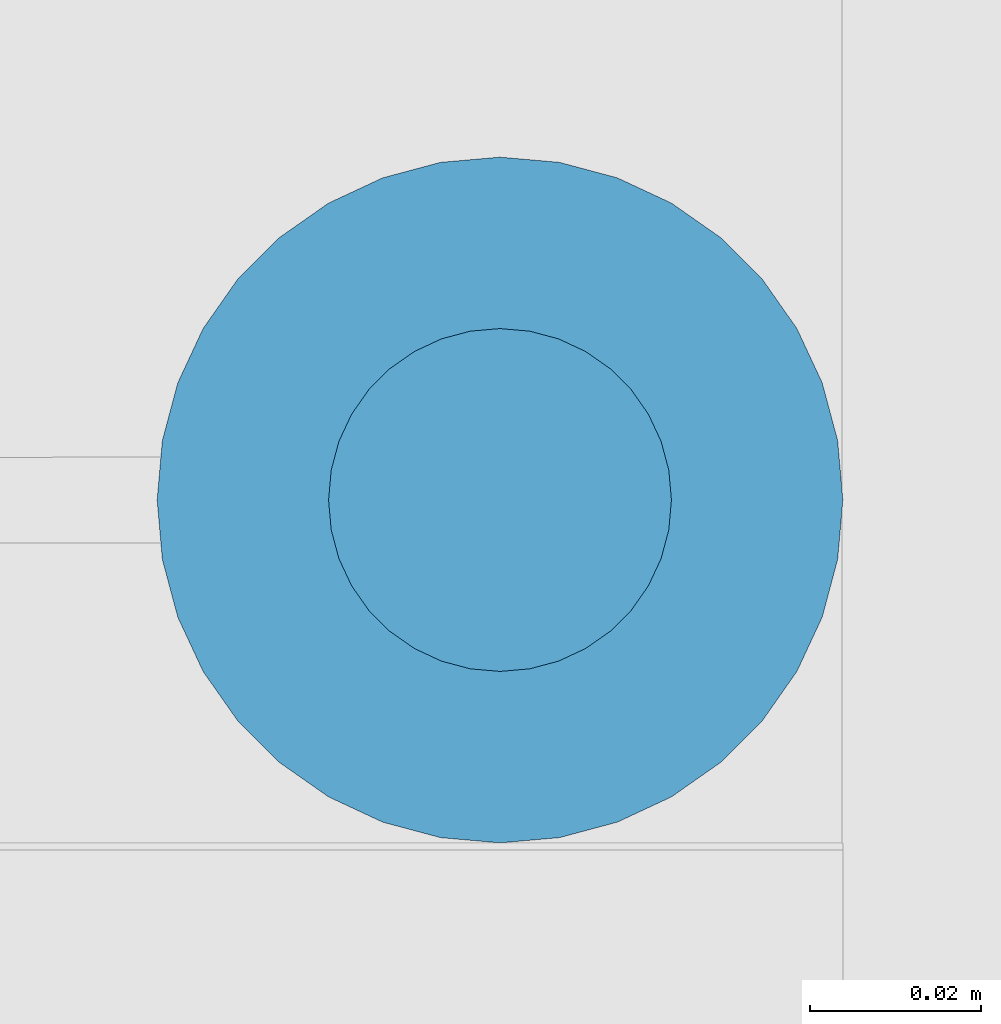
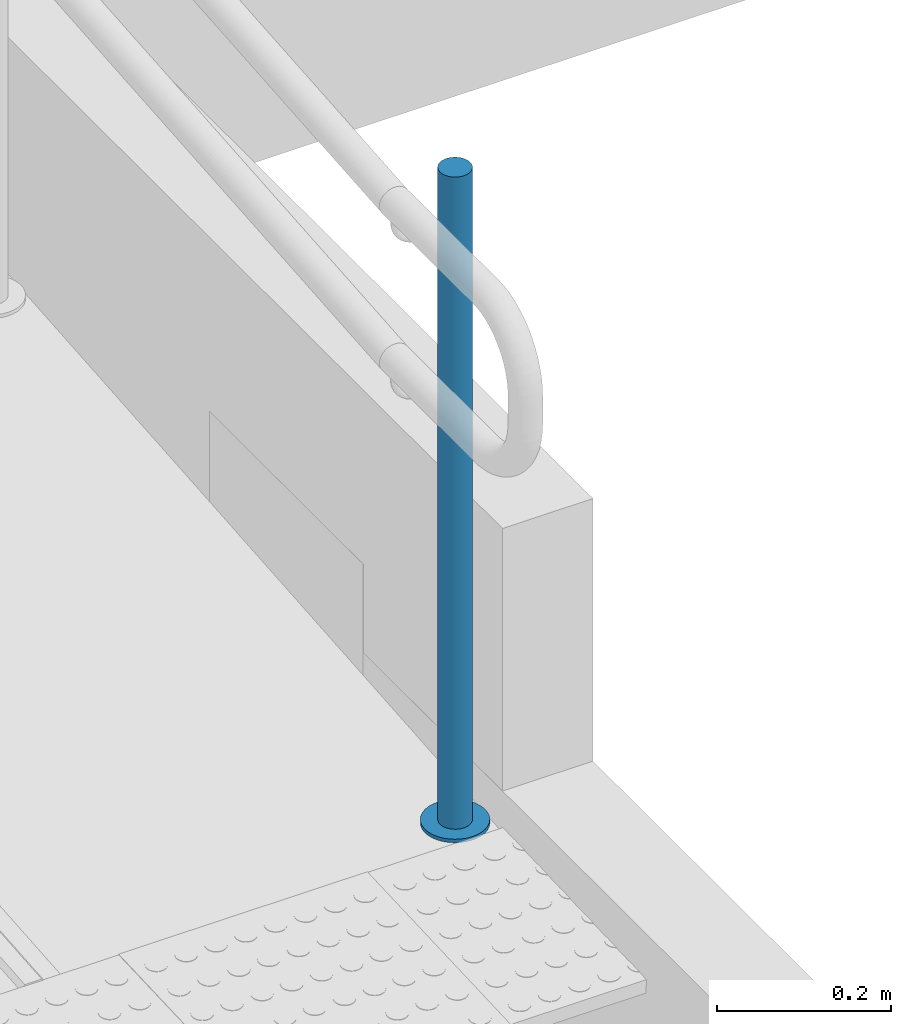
# One storey, part 101 of 237: 2 building element parts, 1 element without a shape of its own.
"""IFC2X3 building model written with IfcOpenShell, lengths in millimetres."""

from ifc_helpers import new_model, entity, si_unit, converted_unit, derived_unit, money_unit, direction, frame, origin_with_axes, place, context, subcontext, project, spatial, faceted_brep, material, type_object, element, aggregate, save


model = new_model("IFC2X3")

# Units and contexts
model_context = context("Model", 3, precision=0.01, world=origin_with_axes(), true_north=direction((0.0, 1.0)))
body_context = subcontext(model_context, "Body", "Model", "MODEL_VIEW")
ifc_project = project(units=[si_unit("LENGTHUNIT", "METRE", prefix="MILLI"), si_unit("AREAUNIT", "SQUARE_METRE"), si_unit("VOLUMEUNIT", "CUBIC_METRE"), converted_unit("PLANEANGLEUNIT", "DEGREE", entity("IfcPlaneAngleMeasure", 0.0174532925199), si_unit("PLANEANGLEUNIT", "RADIAN"), dimensions=[0, 0, 0, 0, 0, 0, 0]), money_unit("USD"), converted_unit("TIMEUNIT", "Year", entity("IfcTimeMeasure", 31556926.0), si_unit("TIMEUNIT", "SECOND"), dimensions=[0, 0, 1, 0, 0, 0, 0]), si_unit("MASSUNIT", "GRAM", prefix="KILO"), si_unit("THERMODYNAMICTEMPERATUREUNIT", "DEGREE_CELSIUS"), si_unit("LUMINOUSINTENSITYUNIT", "LUMEN"), si_unit("ENERGYUNIT", "JOULE", prefix="MEGA"), derived_unit("THERMALCONDUCTANCEUNIT", [(si_unit("POWERUNIT", "WATT"), 1), (si_unit("LENGTHUNIT", "METRE"), -1), (si_unit("THERMODYNAMICTEMPERATUREUNIT", "KELVIN"), -1)]), derived_unit("SPECIFICHEATCAPACITYUNIT", [(si_unit("ENERGYUNIT", "JOULE"), 1), (si_unit("MASSUNIT", "GRAM", prefix="KILO"), -1), (si_unit("THERMODYNAMICTEMPERATUREUNIT", "KELVIN"), -1)]), derived_unit("MASSDENSITYUNIT", [(si_unit("MASSUNIT", "GRAM", prefix="KILO"), 1), (si_unit("VOLUMEUNIT", "CUBIC_METRE"), -1)])], contexts=[model_context])

# Site, building, storey
site_placement = place(None, origin_with_axes())
site = spatial("IfcSite", under=ifc_project, at=site_placement, Name="Local", CompositionType="ELEMENT")
building_placement = place(site_placement, origin_with_axes())
building = spatial("IfcBuilding", under=site, at=building_placement, Name="Construção", CompositionType="ELEMENT")
storey_placement = place(building_placement, origin_with_axes())
storey = spatial("IfcBuildingStorey", under=building, at=storey_placement, Name="Pavimento Térreo", CompositionType="ELEMENT", Elevation=0.0)

# Railing, building element parts
railing_type = type_object("IfcRailingType", Name="Tipo de Guarda-Corpo", PredefinedType="NOTDEFINED")
railing_placement = place(storey_placement, frame((84886.384695, 12791.8118634, -5267.74663192), z_axis=(0.0, 0.0, 1.0), x_axis=(1.0, 0.0, 0.0)))
railing = element("IfcRailing", 1, at=railing_placement, inside=storey, type_object=railing_type, Name="Guarda-Corpo - 001", PredefinedType="NOTDEFINED")
ifc_material_1 = material(Name="Aço - Inoxidável")
building_element_part_1_placement = place(railing_placement, origin_with_axes())
building_element_part_1 = element("IfcBuildingElementPart", 2, at=building_element_part_1_placement, material=ifc_material_1, Name="Aço - Inoxidável", context=body_context, shape_type="Brep", body=[
    faceted_brep([(-20.3125903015, 36.5221738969, 8.33200040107), (-20.0095769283, 39.9952101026, 8.33200040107), (-20.0095769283, 39.9952101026, 923.332000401), (-20.3125903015, 36.5221738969, 923.332000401), (-20.3142534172, 43.4681008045, 8.33200040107), (-21.2140866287, 33.1545186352, 8.33200040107), (-22.6866744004, 29.9945688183, 8.33200040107), (-24.6856097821, 27.1383379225, 8.33200040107), (-27.1501561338, 24.6726110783, 8.33200040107), (-30.0054294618, 22.672308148, 8.33200040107), (-33.1646737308, 21.198207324, 8.33200040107), (-36.5318969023, 20.295098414, 8.33200040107), (-40.0047876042, 19.9904219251, 8.33200040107), (-43.4778238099, 20.2934352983, 8.33200040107), (-46.8454790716, 21.1949316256, 8.33200040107), (-50.0054288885, 22.6675193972, 8.33200040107), (-52.8616597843, 24.6664547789, 8.33200040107), (-55.3273866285, 27.1310011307, 8.33200040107), (-57.3276895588, 29.9862744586, 8.33200040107), (-58.8017903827, 33.1455187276, 8.33200040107), (-59.7048992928, 36.5127418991, 8.33200040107), (-60.0095757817, 39.985632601, 8.33200040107), (-59.7065624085, 43.4586688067, 8.33200040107), (-58.8050660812, 46.8263240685, 8.33200040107), (-57.3324783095, 49.9862738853, 8.33200040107), (-55.3335429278, 52.8425047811, 8.33200040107), (-52.8689965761, 55.3082316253, 8.33200040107), (-50.0137232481, 57.3085345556, 8.33200040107), (-46.8544789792, 58.7826353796, 8.33200040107), (-43.4872558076, 59.6857442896, 8.33200040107), (-40.0143651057, 59.9904207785, 8.33200040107), (-36.5413289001, 59.6874074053, 8.33200040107), (-33.1736736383, 58.785911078, 8.33200040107), (-30.0137238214, 57.3133233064, 8.33200040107), (-27.1574929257, 55.3143879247, 8.33200040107), (-24.6917660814, 52.849841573, 8.33200040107), (-22.6914631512, 49.994568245, 8.33200040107), (-21.2173623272, 46.835323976, 8.33200040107), (-20.3142534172, 43.4681008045, 923.332000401), (-43.4778238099, 20.2934352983, 923.332000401), (-40.0047876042, 19.9904219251, 923.332000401), (-36.5318969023, 20.295098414, 923.332000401), (-33.1646737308, 21.198207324, 923.332000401), (-30.0054294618, 22.672308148, 923.332000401), (-27.1501561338, 24.6726110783, 923.332000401), (-24.6856097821, 27.1383379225, 923.332000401), (-22.6866744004, 29.9945688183, 923.332000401), (-21.2140866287, 33.1545186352, 923.332000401), (-21.2173623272, 46.835323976, 923.332000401), (-22.6914631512, 49.994568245, 923.332000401), (-24.6917660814, 52.849841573, 923.332000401), (-27.1574929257, 55.3143879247, 923.332000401), (-30.0137238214, 57.3133233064, 923.332000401), (-33.1736736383, 58.785911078, 923.332000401), (-36.5413289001, 59.6874074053, 923.332000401), (-40.0143651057, 59.9904207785, 923.332000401), (-43.4872558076, 59.6857442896, 923.332000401), (-46.8544789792, 58.7826353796, 923.332000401), (-50.0137232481, 57.3085345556, 923.332000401), (-52.8689965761, 55.3082316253, 923.332000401), (-55.3335429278, 52.8425047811, 923.332000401), (-57.3324783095, 49.9862738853, 923.332000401), (-58.8050660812, 46.8263240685, 923.332000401), (-59.7065624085, 43.4586688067, 923.332000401), (-60.0095757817, 39.985632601, 923.332000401), (-59.7048992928, 36.5127418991, 923.332000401), (-58.8017903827, 33.1455187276, 923.332000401), (-57.3276895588, 29.9862744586, 923.332000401), (-55.3273866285, 27.1310011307, 923.332000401), (-52.8616597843, 24.6664547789, 923.332000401), (-50.0054288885, 22.6675193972, 923.332000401), (-46.8454790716, 21.1949316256, 923.332000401)], [[[0, 1, 2, 3]], [[4, 1, 0, 5, 6, 7, 8, 9, 10, 11, 12, 13, 14, 15, 16, 17, 18, 19, 20, 21, 22, 23, 24, 25, 26, 27, 28, 29, 30, 31, 32, 33, 34, 35, 36, 37]], [[1, 4, 38, 2]], [[39, 40, 41, 42, 43, 44, 45, 46, 47, 3, 2, 38, 48, 49, 50, 51, 52, 53, 54, 55, 56, 57, 58, 59, 60, 61, 62, 63, 64, 65, 66, 67, 68, 69, 70, 71]], [[5, 0, 3, 47]], [[6, 5, 47, 46]], [[7, 6, 46, 45]], [[8, 7, 45, 44]], [[9, 8, 44, 43]], [[10, 9, 43, 42]], [[11, 10, 42, 41]], [[12, 11, 41, 40]], [[13, 12, 40, 39]], [[14, 13, 39, 71]], [[15, 14, 71, 70]], [[16, 15, 70, 69]], [[17, 16, 69, 68]], [[18, 17, 68, 67]], [[19, 18, 67, 66]], [[20, 19, 66, 65]], [[21, 20, 65, 64]], [[22, 21, 64, 63]], [[23, 22, 63, 62]], [[24, 23, 62, 61]], [[25, 24, 61, 60]], [[26, 25, 60, 59]], [[27, 26, 59, 58]], [[28, 27, 58, 57]], [[29, 28, 57, 56]], [[30, 29, 56, 55]], [[31, 30, 55, 54]], [[32, 31, 54, 53]], [[33, 32, 53, 52]], [[34, 33, 52, 51]], [[35, 34, 51, 50]], [[36, 35, 50, 49]], [[37, 36, 49, 48]], [[4, 37, 48, 38]]]),
])
ifc_material_2 = material(Name="Alumínio")
building_element_part_2_placement = place(railing_placement, origin_with_axes())
building_element_part_2 = element("IfcBuildingElementPart", 3, at=building_element_part_2_placement, material=ifc_material_2, Name="Alumínio", context=body_context, shape_type="Brep", body=[
    faceted_brep([(-40.0191538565, 79.9904202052, 3.33200040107), (-46.9649352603, 79.3810672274, 3.33200040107), (-46.9649352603, 79.3810672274, 8.33200040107), (-40.0191538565, 79.9904202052, 8.33200040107), (-33.0730814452, 79.3843934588, 3.33200040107), (-26.3377709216, 77.5814008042, 3.33200040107), (-20.0178712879, 74.636225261, 3.33200040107), (-14.3054094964, 70.6383544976, 3.33200040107), (-9.37395580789, 65.7092617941, 3.33200040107), (-5.37334994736, 59.9987151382, 3.33200040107), (-2.42514829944, 53.6802266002, 3.33200040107), (-0.618930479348, 46.9457802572, 3.33200040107), (-0.00957750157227, 39.9999988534, 3.33200040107), (-0.615604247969, 33.053926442, 3.33200040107), (-2.41859690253, 26.3186159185, 3.33200040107), (-5.36377244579, 19.9987162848, 3.33200040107), (-9.36164320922, 14.2862544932, 3.33200040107), (-14.2907359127, 9.35480080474, 3.33200040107), (-20.0012825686, 5.35419494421, 3.33200040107), (-26.3197711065, 2.40599329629, 3.33200040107), (-33.0542174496, 0.599775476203, 3.33200040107), (-39.9999988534, -0.00957750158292, 3.33200040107), (-46.9460712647, 0.596449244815, 3.33200040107), (-53.6813817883, 2.39944189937, 3.33200040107), (-60.001281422, 5.34461744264, 3.33200040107), (-65.7137432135, 9.34248820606, 3.33200040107), (-70.645196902, 14.2715809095, 3.33200040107), (-74.6458027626, 19.9821275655, 3.33200040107), (-77.5940044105, 26.3006161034, 3.33200040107), (-79.4002222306, 33.0350624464, 3.33200040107), (-80.0095752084, 39.9808438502, 3.33200040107), (-79.403548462, 46.9269162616, 3.33200040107), (-77.6005558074, 53.6622267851, 3.33200040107), (-74.6553802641, 59.9821264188, 3.33200040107), (-70.6575095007, 65.6945882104, 3.33200040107), (-65.7284167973, 70.6260418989, 3.33200040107), (-60.0178701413, 74.6266477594, 3.33200040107), (-53.6993816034, 77.5748494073, 3.33200040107), (-53.6993816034, 77.5748494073, 8.33200040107), (-60.0178701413, 74.6266477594, 8.33200040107), (-65.7284167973, 70.6260418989, 8.33200040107), (-70.6575095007, 65.6945882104, 8.33200040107), (-74.6553802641, 59.9821264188, 8.33200040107), (-77.6005558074, 53.6622267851, 8.33200040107), (-79.403548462, 46.9269162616, 8.33200040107), (-80.0095752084, 39.9808438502, 8.33200040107), (-79.4002222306, 33.0350624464, 8.33200040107), (-77.5940044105, 26.3006161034, 8.33200040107), (-74.6458027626, 19.9821275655, 8.33200040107), (-70.645196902, 14.2715809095, 8.33200040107), (-65.7137432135, 9.34248820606, 8.33200040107), (-60.001281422, 5.34461744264, 8.33200040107), (-53.6813817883, 2.39944189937, 8.33200040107), (-46.9460712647, 0.596449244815, 8.33200040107), (-39.9999988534, -0.00957750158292, 8.33200040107), (-33.0542174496, 0.599775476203, 8.33200040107), (-26.3197711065, 2.40599329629, 8.33200040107), (-20.0012825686, 5.35419494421, 8.33200040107), (-14.2907359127, 9.35480080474, 8.33200040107), (-9.36164320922, 14.2862544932, 8.33200040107), (-5.36377244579, 19.9987162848, 8.33200040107), (-2.41859690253, 26.3186159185, 8.33200040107), (-0.615604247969, 33.053926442, 8.33200040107), (-0.00957750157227, 39.9999988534, 8.33200040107), (-0.618930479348, 46.9457802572, 8.33200040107), (-2.42514829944, 53.6802266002, 8.33200040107), (-5.37334994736, 59.9987151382, 8.33200040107), (-9.37395580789, 65.7092617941, 8.33200040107), (-14.3054094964, 70.6383544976, 8.33200040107), (-20.0178712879, 74.636225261, 8.33200040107), (-26.3377709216, 77.5814008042, 8.33200040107), (-33.0730814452, 79.3843934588, 8.33200040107)], [[[0, 1, 2, 3]], [[0, 4, 5, 6, 7, 8, 9, 10, 11, 12, 13, 14, 15, 16, 17, 18, 19, 20, 21, 22, 23, 24, 25, 26, 27, 28, 29, 30, 31, 32, 33, 34, 35, 36, 37, 1]], [[1, 37, 38, 2]], [[3, 2, 38, 39, 40, 41, 42, 43, 44, 45, 46, 47, 48, 49, 50, 51, 52, 53, 54, 55, 56, 57, 58, 59, 60, 61, 62, 63, 64, 65, 66, 67, 68, 69, 70, 71]], [[4, 0, 3, 71]], [[5, 4, 71, 70]], [[6, 5, 70, 69]], [[7, 6, 69, 68]], [[8, 7, 68, 67]], [[9, 8, 67, 66]], [[10, 9, 66, 65]], [[11, 10, 65, 64]], [[12, 11, 64, 63]], [[13, 12, 63, 62]], [[14, 13, 62, 61]], [[15, 14, 61, 60]], [[16, 15, 60, 59]], [[17, 16, 59, 58]], [[18, 17, 58, 57]], [[19, 18, 57, 56]], [[20, 19, 56, 55]], [[21, 20, 55, 54]], [[22, 21, 54, 53]], [[23, 22, 53, 52]], [[24, 23, 52, 51]], [[25, 24, 51, 50]], [[26, 25, 50, 49]], [[27, 26, 49, 48]], [[28, 27, 48, 47]], [[29, 28, 47, 46]], [[30, 29, 46, 45]], [[31, 30, 45, 44]], [[32, 31, 44, 43]], [[33, 32, 43, 42]], [[34, 33, 42, 41]], [[35, 34, 41, 40]], [[36, 35, 40, 39]], [[37, 36, 39, 38]]]),
])
aggregate(railing, [building_element_part_1, building_element_part_2])

save(model, "model.ifc")
